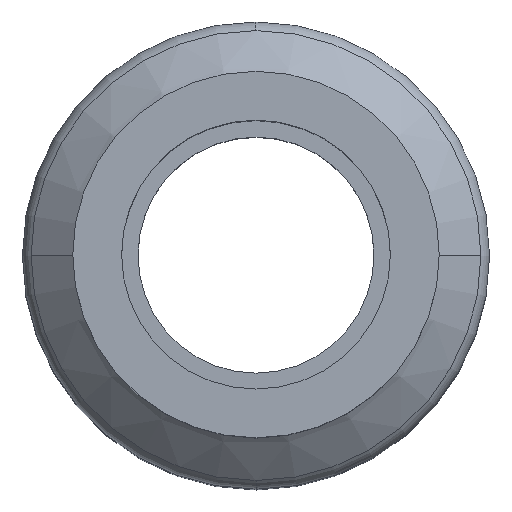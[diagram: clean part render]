
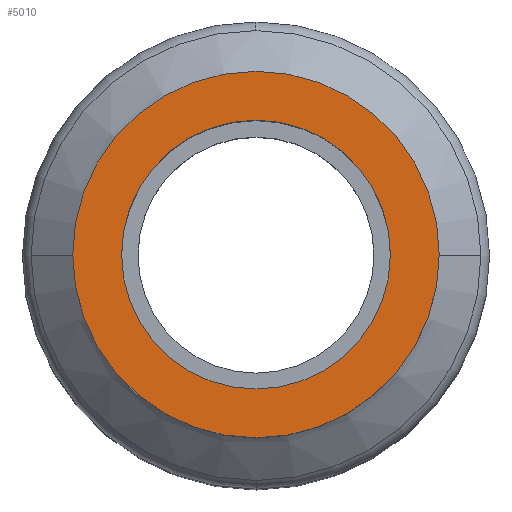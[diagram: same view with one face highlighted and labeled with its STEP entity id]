
A CAD part, top view. The second image highlights one B-rep face of the part: STEP entity #5010.
In plain terms, the highlighted planar face has unit normal (0, 0, 1) as drawn and (-1, 0, 0) by its records, which use the part's own axes.
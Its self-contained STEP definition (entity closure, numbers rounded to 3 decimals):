
#3810=CARTESIAN_POINT('',(42.576,53.188,0.));
#3820=VERTEX_POINT('',#3810);
#3850=CARTESIAN_POINT('',(42.576,39.288,0.));
#3860=DIRECTION('',(-1.,0.,0.));
#3870=DIRECTION('',(0.,1.,0.));
#3880=AXIS2_PLACEMENT_3D('',#3850,#3860,#3870);
#3890=CIRCLE('',#3880,13.9);
#3900=CARTESIAN_POINT('',(42.576,25.388,0.));
#3910=VERTEX_POINT('',#3900);
#3920=EDGE_CURVE('',#3910,#3820,#3890,.T.);
#4530=CARTESIAN_POINT('',(42.576,20.338,0.));
#4540=VERTEX_POINT('',#4530);
#4720=CARTESIAN_POINT('',(42.576,58.238,0.));
#4730=VERTEX_POINT('',#4720);
#4760=CARTESIAN_POINT('',(42.576,39.288,0.));
#4770=DIRECTION('',(1.,0.,0.));
#4780=DIRECTION('',(0.,1.,0.));
#4790=AXIS2_PLACEMENT_3D('',#4760,#4770,#4780);
#4800=CIRCLE('',#4790,18.95);
#4810=EDGE_CURVE('',#4540,#4730,#4800,.T.);
#4860=CARTESIAN_POINT('',(42.576,57.963,0.));
#4870=DIRECTION('',(-1.,-0.,0.));
#4880=DIRECTION('',(0.,-1.,0.));
#4890=AXIS2_PLACEMENT_3D('',#4860,#4870,#4880);
#4900=PLANE('',#4890);
#4910=EDGE_CURVE('',#3820,#3910,#3890,.T.);
#4920=ORIENTED_EDGE('',*,*,#4910,.F.);
#4930=ORIENTED_EDGE('',*,*,#3920,.F.);
#4940=EDGE_LOOP('',(#4930,#4920));
#4950=FACE_BOUND('',#4940,.T.);
#4960=EDGE_CURVE('',#4730,#4540,#4800,.T.);
#4970=ORIENTED_EDGE('',*,*,#4960,.F.);
#4980=ORIENTED_EDGE('',*,*,#4810,.F.);
#4990=EDGE_LOOP('',(#4980,#4970));
#5000=FACE_OUTER_BOUND('',#4990,.T.);
#5010=ADVANCED_FACE('',(#4950,#5000),#4900,.T.);
